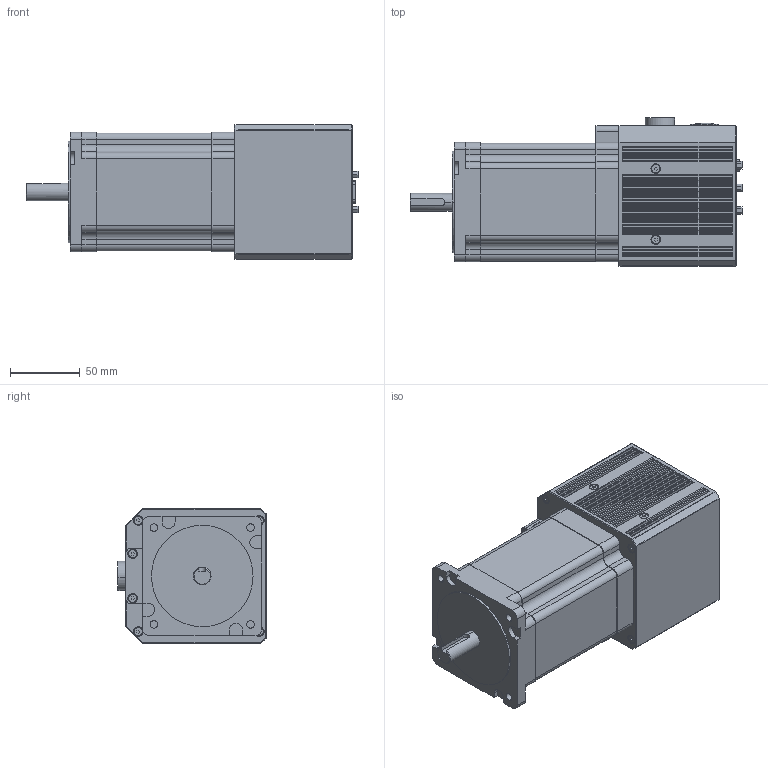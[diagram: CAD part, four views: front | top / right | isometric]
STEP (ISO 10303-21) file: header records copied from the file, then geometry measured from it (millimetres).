
FILE_DESCRIPTION (( 'STEP AP203' ), '1' );
FILE_NAME ('ÑÏØ10-34 äâèãàòåëü FL86STH118.STEP', '2010-05-04T08:17:48', ( 'User' ), ( 'Microsoft Corporation' ), 'SwSTEP 2.0', 'SolidWorks 2008', '' );
FILE_SCHEMA (( 'CONFIG_CONTROL_DESIGN' ));
Length unit declared in the file: millimetre
Products named in the file (1): ÑÏØ10-34 äâèãàòåëü FL86STH118
Bounding box: 238.75 x 106.73 x 97 mm (x, y, z)
Volume: 982870.3 mm3; surface area: 164193.1 mm2
Topology: 3 solids, 22 shells, 1581 faces, 3901 edges, 2527 vertices
Faces by surface type: plane 722, cylinder 683, cone 162, torus 12, sphere 2
Entity records: 46959 total; most frequent: DIRECTION 8586, CARTESIAN_POINT 8010, ORIENTED_EDGE 7730, EDGE_CURVE 3865, AXIS2_PLACEMENT_3D 3143, VERTEX_POINT 2527, VECTOR 2300, LINE 2300
